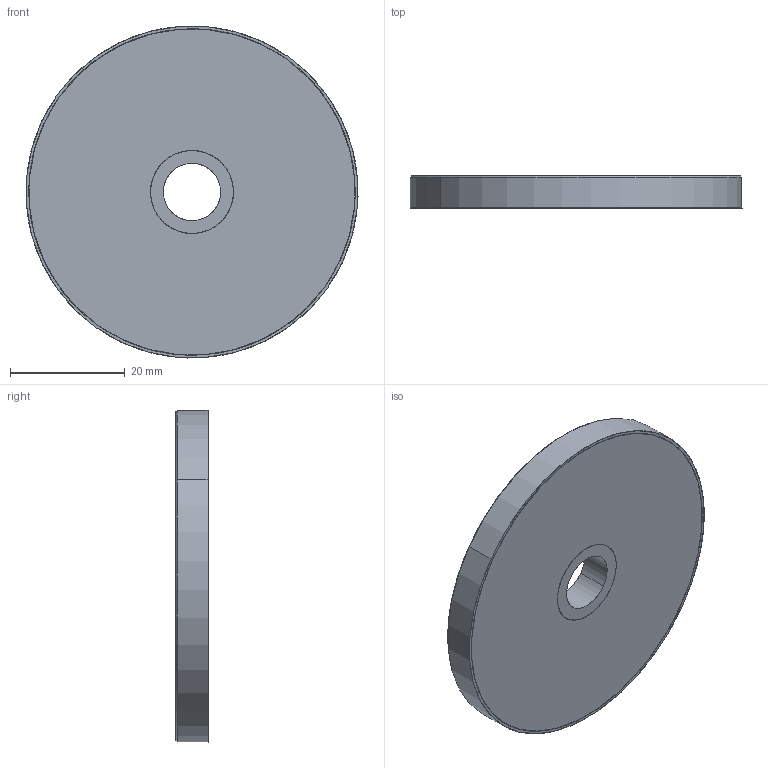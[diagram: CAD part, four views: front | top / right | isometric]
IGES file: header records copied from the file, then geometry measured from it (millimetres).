
Start section: SolidWorks IGES file using analytic representation for surfaces
Global section: file name: C:\Zettlex Data\Mechanical Drawings\1615\58mm Plain Rotor 10.00mm Rev 1-0.IGS; native system: SolidWorks 2015; preprocessor: SolidWorks 2015; author: Nigel; date: 150907.174139; units: millimetre
Bounding box: 57.98 x 5.6 x 57.98 mm (x, y, z)
Surface area: 6348.4 mm2 (no closed solid volume)
Topology: 0 solids, 0 shells, 656 faces, 7778 edges, 7778 vertices
Faces by surface type: bspline 642, revolution 14
